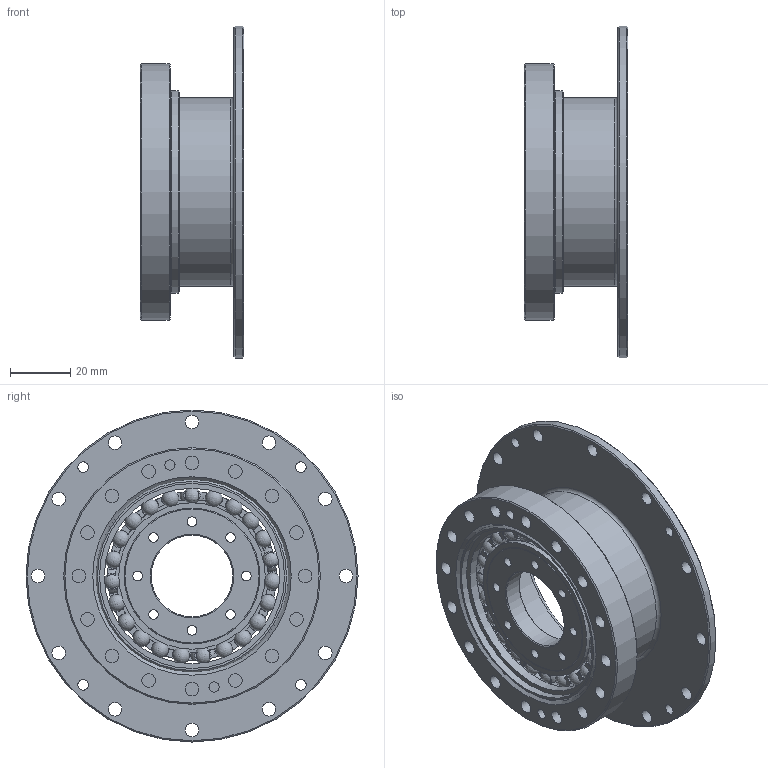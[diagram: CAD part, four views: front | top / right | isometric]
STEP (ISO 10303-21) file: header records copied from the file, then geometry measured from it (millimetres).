
FILE_DESCRIPTION(/* description */ (''),/* implementation_level */ '2;1');
FILE_NAME(/* name */ 'Getriebeset_HTG_63_HS.stp',/* time_stamp */ '2026-03-09T10:59:23+01:00',/* author */ (''),/* organization */ (''),/* preprocessor_version */ 'ST-DEVELOPER v19.4',/* originating_system */ 'SIEMENS PLM Software NX2212.9120',/* authorisation */ '');
FILE_SCHEMA (('AUTOMOTIVE_DESIGN { 1 0 10303 214 3 1 1 1 }'));
Length unit declared in the file: millimetre
Products named in the file (1): Getriebeset_HTG_63_HS
Bounding box: 34.4 x 110 x 110 mm (x, y, z)
Volume: 56010.9 mm3; surface area: 56434.5 mm2
Topology: 29 solids, 29 shells, 294 faces, 849 edges, 572 vertices
Faces by surface type: cylinder 99, plane 67, torus 46, cone 45, sphere 35, bspline 2
Full cylindrical faces by diameter (mm): 3.2 x8, 3.4 x2, 3.5 x4, 4.5 x28, 27 x1, 42 x1, 45 x2, 48.2 x1, 48.5 x2, 53.253 x1, 58.1 x2, 61.3 x2, 62.3 x1, 63 x1, 64 x1, 67 x1, 85 x1, 88 x1, 110 x1
Entity records: 12076 total; most frequent: CARTESIAN_POINT 5152, ORIENTED_EDGE 1296, DIRECTION 1290, EDGE_CURVE 648, AXIS2_PLACEMENT_3D 607, VERTEX_POINT 503, EDGE_LOOP 458, CIRCLE 314
